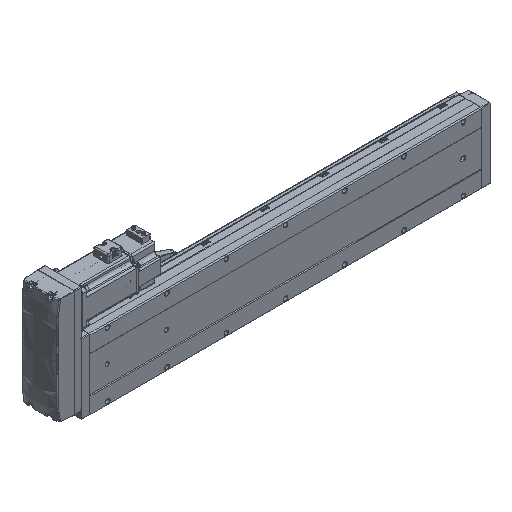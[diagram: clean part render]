
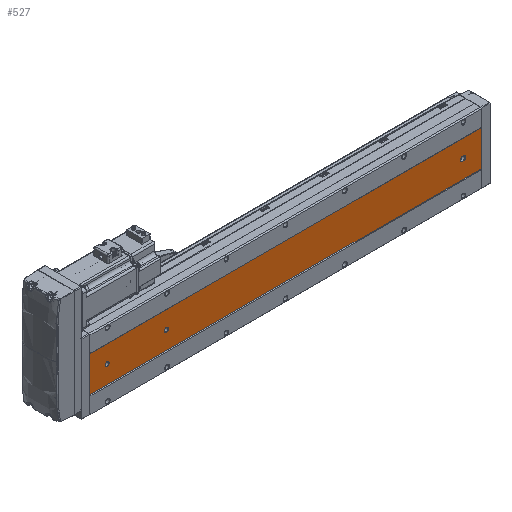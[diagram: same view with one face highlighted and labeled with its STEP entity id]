
A CAD part, isometric view. The second image highlights one B-rep face of the part: STEP entity #527.
In plain terms, the highlighted planar face has unit normal (0, -1, 0).
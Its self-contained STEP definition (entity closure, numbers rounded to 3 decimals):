
#527 = ADVANCED_FACE ( 'NONE', ( #102574, #7545, #76005, #79844 ), #72837, .F. ) ;
#696 = CARTESIAN_POINT ( 'NONE',  ( -39.892, -52.848, 527.5 ) ) ;
#991 = EDGE_CURVE ( 'NONE', #62233, #58600, #89767, .T. ) ;
#2171 = CARTESIAN_POINT ( 'NONE',  ( -36.392, -52.848, 661. ) ) ;
#2676 = AXIS2_PLACEMENT_3D ( 'NONE', #41349, #25050, #49454 ) ;
#3037 = ORIENTED_EDGE ( 'NONE', *, *, #40983, .T. ) ;
#4319 = DIRECTION ( 'NONE',  ( 1., 0., 0. ) ) ;
#4385 = DIRECTION ( 'NONE',  ( 0., 1., 0. ) ) ;
#4918 = VERTEX_POINT ( 'NONE', #5782 ) ;
#5006 = ORIENTED_EDGE ( 'NONE', *, *, #99422, .T. ) ;
#5434 = EDGE_LOOP ( 'NONE', ( #78217, #71598 ) ) ;
#5782 = CARTESIAN_POINT ( 'NONE',  ( -43.392, -52.848, 32. ) ) ;
#5801 = CARTESIAN_POINT ( 'NONE',  ( -69.892, -52.848, 0. ) ) ;
#7147 = EDGE_CURVE ( 'NONE', #32293, #27258, #54952, .T. ) ;
#7545 = FACE_BOUND ( 'NONE', #18167, .T. ) ;
#8177 = CARTESIAN_POINT ( 'NONE',  ( -9.892, -52.848, 0. ) ) ;
#9331 = EDGE_CURVE ( 'NONE', #10052, #53763, #31574, .T. ) ;
#9799 = EDGE_CURVE ( 'NONE', #45510, #15614, #92362, .T. ) ;
#9877 = CIRCLE ( 'NONE', #23749, 3.5 ) ;
#10052 = VERTEX_POINT ( 'NONE', #36518 ) ;
#10998 = DIRECTION ( 'NONE',  ( 0., 0., -1. ) ) ;
#11441 = ORIENTED_EDGE ( 'NONE', *, *, #47187, .F. ) ;
#15614 = VERTEX_POINT ( 'NONE', #27664 ) ;
#15726 = DIRECTION ( 'NONE',  ( 0., 1., 0. ) ) ;
#16533 = CARTESIAN_POINT ( 'NONE',  ( -39.892, -52.848, 631. ) ) ;
#17705 = CARTESIAN_POINT ( 'NONE',  ( -9.892, -52.848, 661. ) ) ;
#18167 = EDGE_LOOP ( 'NONE', ( #33638, #88852 ) ) ;
#19537 = VECTOR ( 'NONE', #58089, 1000. ) ;
#19754 = EDGE_CURVE ( 'NONE', #27258, #99617, #37473, .T. ) ;
#21535 = CARTESIAN_POINT ( 'NONE',  ( -9.892, -52.848, 661. ) ) ;
#21955 = VECTOR ( 'NONE', #10998, 1000. ) ;
#22468 = DIRECTION ( 'NONE',  ( 0., 0., 1. ) ) ;
#23749 = AXIS2_PLACEMENT_3D ( 'NONE', #62134, #30561, #22468 ) ;
#24241 = VERTEX_POINT ( 'NONE', #21535 ) ;
#24523 = CARTESIAN_POINT ( 'NONE',  ( -39.892, -52.848, 634.5 ) ) ;
#25050 = DIRECTION ( 'NONE',  ( 0., 1., 0. ) ) ;
#27258 = VERTEX_POINT ( 'NONE', #5801 ) ;
#27664 = CARTESIAN_POINT ( 'NONE',  ( -39.892, -52.848, 627.5 ) ) ;
#30561 = DIRECTION ( 'NONE',  ( 0., 1., 0. ) ) ;
#31574 = CIRCLE ( 'NONE', #2676, 3.5 ) ;
#31782 = CARTESIAN_POINT ( 'NONE',  ( -39.892, -52.848, 26.5 ) ) ;
#32293 = VERTEX_POINT ( 'NONE', #65760 ) ;
#33222 = DIRECTION ( 'NONE',  ( 0., 1., 0. ) ) ;
#33638 = ORIENTED_EDGE ( 'NONE', *, *, #991, .T. ) ;
#35262 = EDGE_CURVE ( 'NONE', #58600, #62233, #59233, .T. ) ;
#36518 = CARTESIAN_POINT ( 'NONE',  ( -36.392, -52.848, 30. ) ) ;
#37473 = LINE ( 'NONE', #53124, #93247 ) ;
#37530 = DIRECTION ( 'NONE',  ( 0., 0., -1. ) ) ;
#37580 = DIRECTION ( 'NONE',  ( 0., 1., 0. ) ) ;
#37926 = CARTESIAN_POINT ( 'NONE',  ( -39.892, -52.848, 631. ) ) ;
#38051 = VECTOR ( 'NONE', #62114, 1000. ) ;
#38750 = EDGE_CURVE ( 'NONE', #101281, #10052, #77755, .T. ) ;
#40554 = LINE ( 'NONE', #77011, #38051 ) ;
#40827 = CIRCLE ( 'NONE', #86795, 3.5 ) ;
#40983 = EDGE_CURVE ( 'NONE', #4918, #101281, #9877, .T. ) ;
#41349 = CARTESIAN_POINT ( 'NONE',  ( -39.892, -52.848, 30. ) ) ;
#43334 = EDGE_CURVE ( 'NONE', #24241, #99617, #60135, .T. ) ;
#44087 = CARTESIAN_POINT ( 'NONE',  ( -39.892, -52.848, 534.5 ) ) ;
#44594 = AXIS2_PLACEMENT_3D ( 'NONE', #45144, #4385, #85481 ) ;
#45081 = CARTESIAN_POINT ( 'NONE',  ( -69.892, -52.848, 661. ) ) ;
#45144 = CARTESIAN_POINT ( 'NONE',  ( -39.892, -52.848, 531. ) ) ;
#45510 = VERTEX_POINT ( 'NONE', #24523 ) ;
#46245 = ORIENTED_EDGE ( 'NONE', *, *, #9331, .T. ) ;
#47187 = EDGE_CURVE ( 'NONE', #32293, #24241, #99246, .T. ) ;
#49454 = DIRECTION ( 'NONE',  ( 0., 0., 1. ) ) ;
#50761 = EDGE_CURVE ( 'NONE', #15614, #45510, #62046, .T. ) ;
#53124 = CARTESIAN_POINT ( 'NONE',  ( -69.892, -52.848, 0. ) ) ;
#53430 = CARTESIAN_POINT ( 'NONE',  ( -69.892, -52.848, 661. ) ) ;
#53763 = VERTEX_POINT ( 'NONE', #31782 ) ;
#54952 = LINE ( 'NONE', #53430, #67672 ) ;
#56400 = ORIENTED_EDGE ( 'NONE', *, *, #68765, .T. ) ;
#58089 = DIRECTION ( 'NONE',  ( 0., 0., -1. ) ) ;
#58600 = VERTEX_POINT ( 'NONE', #44087 ) ;
#59233 = CIRCLE ( 'NONE', #44594, 3.5 ) ;
#60135 = LINE ( 'NONE', #17705, #19537 ) ;
#62020 = DIRECTION ( 'NONE',  ( 1., 0., 0. ) ) ;
#62046 = CIRCLE ( 'NONE', #85484, 3.5 ) ;
#62114 = DIRECTION ( 'NONE',  ( 0., 0., 1. ) ) ;
#62134 = CARTESIAN_POINT ( 'NONE',  ( -39.892, -52.848, 32. ) ) ;
#62233 = VERTEX_POINT ( 'NONE', #696 ) ;
#64191 = CARTESIAN_POINT ( 'NONE',  ( -39.892, -52.848, 531. ) ) ;
#65760 = CARTESIAN_POINT ( 'NONE',  ( -69.892, -52.848, 661. ) ) ;
#66839 = VERTEX_POINT ( 'NONE', #87158 ) ;
#67672 = VECTOR ( 'NONE', #37530, 1000. ) ;
#68765 = EDGE_CURVE ( 'NONE', #53763, #66839, #40827, .T. ) ;
#69867 = AXIS2_PLACEMENT_3D ( 'NONE', #64191, #73406, #96375 ) ;
#69920 = AXIS2_PLACEMENT_3D ( 'NONE', #16533, #89850, #74669 ) ;
#71271 = AXIS2_PLACEMENT_3D ( 'NONE', #88363, #15726, #72485 ) ;
#71514 = EDGE_LOOP ( 'NONE', ( #5006, #3037, #72078, #46245, #56400 ) ) ;
#71598 = ORIENTED_EDGE ( 'NONE', *, *, #9799, .T. ) ;
#72078 = ORIENTED_EDGE ( 'NONE', *, *, #38750, .T. ) ;
#72485 = DIRECTION ( 'NONE',  ( 0., 0., 1. ) ) ;
#72837 = PLANE ( 'NONE',  #71271 ) ;
#73406 = DIRECTION ( 'NONE',  ( 0., 1., 0. ) ) ;
#73947 = CARTESIAN_POINT ( 'NONE',  ( -36.392, -52.848, 32. ) ) ;
#74669 = DIRECTION ( 'NONE',  ( 0., 0., 1. ) ) ;
#76005 = FACE_BOUND ( 'NONE', #5434, .T. ) ;
#77011 = CARTESIAN_POINT ( 'NONE',  ( -43.392, -52.848, 661. ) ) ;
#77755 = LINE ( 'NONE', #2171, #21955 ) ;
#77759 = VECTOR ( 'NONE', #4319, 1000. ) ;
#78217 = ORIENTED_EDGE ( 'NONE', *, *, #50761, .T. ) ;
#79844 = FACE_OUTER_BOUND ( 'NONE', #94288, .T. ) ;
#81431 = CARTESIAN_POINT ( 'NONE',  ( -39.892, -52.848, 30. ) ) ;
#81721 = ORIENTED_EDGE ( 'NONE', *, *, #19754, .T. ) ;
#85481 = DIRECTION ( 'NONE',  ( 0., 0., 1. ) ) ;
#85484 = AXIS2_PLACEMENT_3D ( 'NONE', #37926, #37580, #94935 ) ;
#86795 = AXIS2_PLACEMENT_3D ( 'NONE', #81431, #33222, #89888 ) ;
#87158 = CARTESIAN_POINT ( 'NONE',  ( -43.392, -52.848, 30. ) ) ;
#88363 = CARTESIAN_POINT ( 'NONE',  ( -69.892, -52.848, 661. ) ) ;
#88852 = ORIENTED_EDGE ( 'NONE', *, *, #35262, .T. ) ;
#89767 = CIRCLE ( 'NONE', #69867, 3.5 ) ;
#89850 = DIRECTION ( 'NONE',  ( 0., 1., 0. ) ) ;
#89888 = DIRECTION ( 'NONE',  ( 0., 0., 1. ) ) ;
#92362 = CIRCLE ( 'NONE', #69920, 3.5 ) ;
#93247 = VECTOR ( 'NONE', #62020, 1000. ) ;
#94288 = EDGE_LOOP ( 'NONE', ( #81721, #99382, #11441, #102432 ) ) ;
#94935 = DIRECTION ( 'NONE',  ( 0., 0., 1. ) ) ;
#96375 = DIRECTION ( 'NONE',  ( 0., 0., 1. ) ) ;
#99246 = LINE ( 'NONE', #45081, #77759 ) ;
#99382 = ORIENTED_EDGE ( 'NONE', *, *, #43334, .F. ) ;
#99422 = EDGE_CURVE ( 'NONE', #66839, #4918, #40554, .T. ) ;
#99617 = VERTEX_POINT ( 'NONE', #8177 ) ;
#101281 = VERTEX_POINT ( 'NONE', #73947 ) ;
#102432 = ORIENTED_EDGE ( 'NONE', *, *, #7147, .T. ) ;
#102574 = FACE_BOUND ( 'NONE', #71514, .T. ) ;
